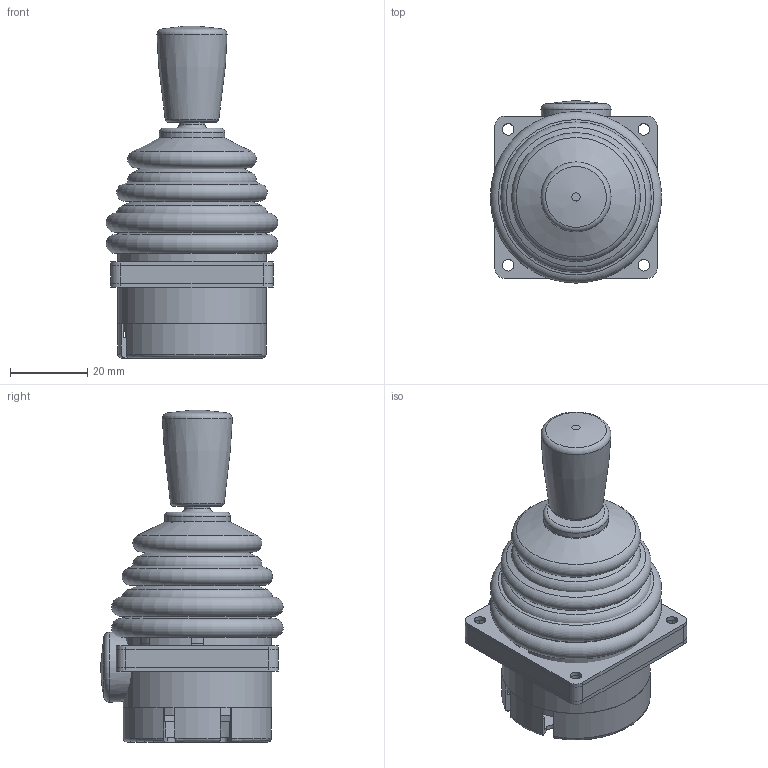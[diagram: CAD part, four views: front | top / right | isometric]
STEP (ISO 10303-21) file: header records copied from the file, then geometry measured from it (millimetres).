
FILE_DESCRIPTION( ( 'Unknown' ), '1' );
FILE_NAME( 'S:/SwitchPanels/Radek/Joysticks/3000/3000/3340SE000/3340SE000.stp', 'Unknown', ( 'Unknown' ), ( 'Unknown' ), 'PSStep 11.0', 'Unknown', ' ' );
FILE_SCHEMA( ( 'AUTOMOTIVE_DESIGN { 1 0 10303 214 1 1 1 1 }' ) );
Length unit declared in the file: millimetre
Products named in the file (5): Assem1; 310003; 310037; 910062 9000 Series Gaitor; Part2
Bounding box: 44.47 x 47.24 x 86.04 mm (x, y, z)
Volume: 37883.3 mm3; surface area: 54893.1 mm2
Topology: 8 solids, 8 shells, 612 faces, 1544 edges, 980 vertices
Faces by surface type: plane 264, cylinder 222, torus 62, bspline 32, cone 28, revolution 2, sphere 2
Full cylindrical faces by diameter (mm): 2 x4, 3 x8, 4.6 x2, 4.8 x2, 6.7 x2, 15.48 x2, 16.98 x2, 32.5 x2, 32.663 x2, 34 x2, 35 x2, 37.75 x2, 38.5 x2
Entity records: 12984 total; most frequent: CARTESIAN_POINT 3225, DIRECTION 1555, ORIENTED_EDGE 1422, EDGE_CURVE 711, AXIS2_PLACEMENT_3D 601, VERTEX_POINT 483, EDGE_LOOP 396, LINE 352
